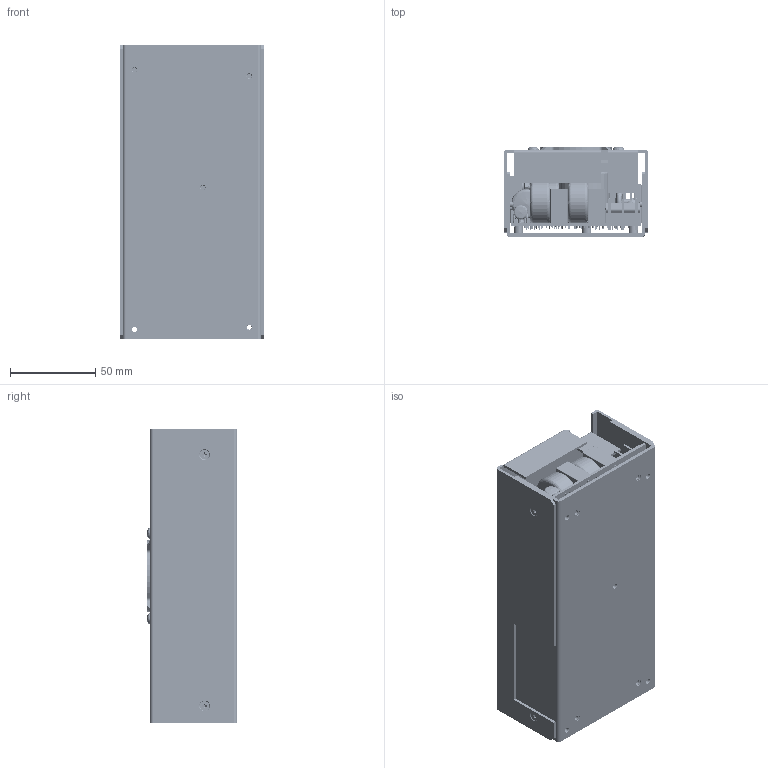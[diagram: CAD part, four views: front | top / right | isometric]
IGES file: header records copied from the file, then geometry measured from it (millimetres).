
Start section: SolidWorks IGES file using analytic representation for surfaces
Global section: file name: C:\Documents and Settings\behzar\Desktop\BEHZAR\PROJECTS\CURRENT-2010\SW-MODELS\WORKING\HELP-1\MFA350-TF-12V-24V-48V.IGS; native system: SolidWorks 2010; preprocessor: SolidWorks 2010; author: BEHZAR; date: 100622.154938; units: inch
Bounding box: 84.61 x 52.81 x 172.72 mm (x, y, z)
Surface area: 231030.4 mm2 (no closed solid volume)
Topology: 0 solids, 0 shells, 4354 faces, 45886 edges, 45836 vertices
Faces by surface type: bspline 2662, revolution 1692
